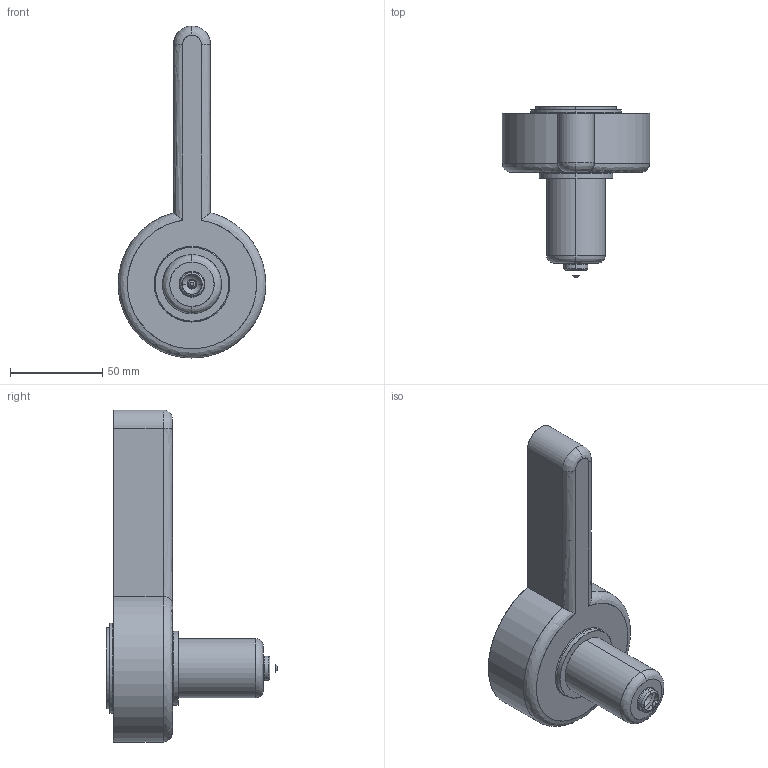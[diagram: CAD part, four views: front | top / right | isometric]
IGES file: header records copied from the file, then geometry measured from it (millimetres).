
Start section: SolidWorks IGES file using analytic representation for surfaces
Global section: file name: C:\Documents and Settings\ws-20\Desktop\TEM\Sede UGEP4501-S-A C-54 L-91 Ød-2.0.IGS; native system: SolidWorks 2012; preprocessor: SolidWorks 2012; author: ws-20; date: 120424.083507; units: millimetre
Bounding box: 79.97 x 93.14 x 180 mm (x, y, z)
Surface area: 32777.6 mm2 (no closed solid volume)
Topology: 0 solids, 0 shells, 44 faces, 952 edges, 952 vertices
Faces by surface type: revolution 27, bspline 17
